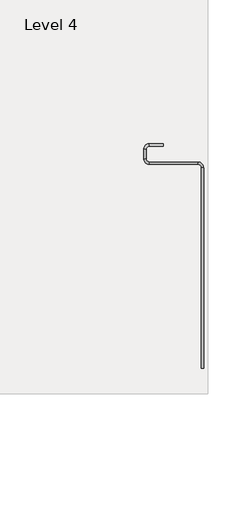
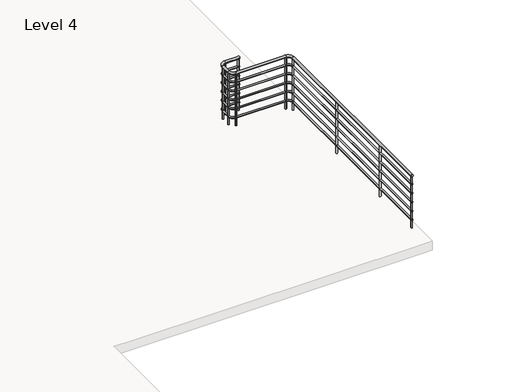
# One storey, part 2 of 4: 1 railing.
"""IFC4 building model written with IfcOpenShell, lengths in millimetres."""

from ifc_helpers import new_model, si_unit, point, frame, frame_2d, origin, place, context, project, spatial, circle_curve, ellipse_curve, trimmed, segment, composite_curve, outline, extrude, element, save
from ifc_brep_helpers import plane_surface, cylinder_surface, revolved_surface, advanced_brep

model = new_model("IFC4")

# Units and contexts
model_context = context("Model", 3, world=origin())
ifc_project = project(units=[si_unit("LENGTHUNIT", "METRE", prefix="MILLI")], contexts=[model_context])

# Site, building, storey
site = spatial("IfcSite", under=ifc_project)
building = spatial("IfcBuilding", under=site)
storey = spatial("IfcBuildingStorey", under=building, Name="Level 4", Elevation=10972.8)

# Railing
placement = place(None, origin())
element("IfcRailing", 1, ObjectType="Handrail - Pipe", at=placement, inside=storey, context=model_context, shape_type="SolidModel", body=[
    advanced_brep(
    [(17286.8049721, -5485.5476681, 11868.15), (17286.8049721, -5523.6476681, 11868.15), (17058.2049721, -5485.5476681, 11868.15), (17058.2049721, -5523.6476681, 11868.15), (17001.0549721, -5580.7976681, 11868.15), (16962.9549721, -5580.7976681, 11868.15), (16962.9549721, -5733.1976681, 11868.15), (17001.0549721, -5733.1976681, 11868.15), (17058.2049721, -5790.3476681, 11868.15), (17058.2049721, -5828.4476681, 11868.15), (17861.7339721, -5828.4476681, 11868.15), (17861.7339721, -5790.3476681, 11868.15), (17918.8839721, -9214.5851681, 11868.15), (17956.9839721, -9214.5851681, 11868.15), (17956.9839721, -5885.5976681, 11868.15), (17918.8839721, -5885.5976681, 11868.15)],
    [
        (0, 1, circle_curve(frame((17286.8049721, -5504.5976681, 11868.15), z_axis=(1.0, 0.0, 0.0), x_axis=(0.0, -1.0, 0.0)), 19.05)),
        (1, 0, circle_curve(frame((17286.8049721, -5504.5976681, 11868.15), z_axis=(1.0, 0.0, 0.0), x_axis=(0.0, -1.0, 0.0)), 19.05)),
        (0, 2),
        (2, 3, circle_curve(frame((17058.2049721, -5504.5976681, 11868.15), z_axis=(1.0, 0.0, 0.0), x_axis=(0.0, -1.0, 0.0)), 19.05)),
        (3, 1),
        (3, 2, circle_curve(frame((17058.2049721, -5504.5976681, 11868.15), z_axis=(1.0, 0.0, 0.0), x_axis=(0.0, -1.0, 0.0)), 19.05)),
        (4, 5, circle_curve(frame((16982.0049721, -5580.7976681, 11868.15), z_axis=(0.0, -1.0, 0.0), x_axis=(1.0, 0.0, 0.0)), 19.05)),
        (5, 6),
        (6, 7, circle_curve(frame((16982.0049721, -5733.1976681, 11868.15), z_axis=(0.0, 1.0, 0.0), x_axis=(1.0, 0.0, 0.0)), 19.05)),
        (7, 4),
        (5, 4, circle_curve(frame((16982.0049721, -5580.7976681, 11868.15), z_axis=(0.0, -1.0, 0.0), x_axis=(1.0, 0.0, 0.0)), 19.05)),
        (7, 6, circle_curve(frame((16982.0049721, -5733.1976681, 11868.15), z_axis=(0.0, 1.0, 0.0), x_axis=(1.0, 0.0, 0.0)), 19.05)),
        (8, 9, circle_curve(frame((17058.2049721, -5809.3976681, 11868.15), z_axis=(1.0, 0.0, 0.0), x_axis=(0.0, 1.0, 0.0)), 19.05)),
        (9, 10),
        (10, 11, circle_curve(frame((17861.7339721, -5809.3976681, 11868.15), z_axis=(-1.0, 0.0, 0.0), x_axis=(0.0, 1.0, 0.0)), 19.05)),
        (11, 8),
        (9, 8, circle_curve(frame((17058.2049721, -5809.3976681, 11868.15), z_axis=(1.0, 0.0, 0.0), x_axis=(0.0, 1.0, 0.0)), 19.05)),
        (11, 10, circle_curve(frame((17861.7339721, -5809.3976681, 11868.15), z_axis=(-1.0, 0.0, 0.0), x_axis=(0.0, 1.0, 0.0)), 19.05)),
        (12, 13, circle_curve(frame((17937.9339721, -9214.5851681, 11868.15), z_axis=(0.0, -1.0, 0.0), x_axis=(1.0, 0.0, 0.0)), 19.05)),
        (13, 12, circle_curve(frame((17937.9339721, -9214.5851681, 11868.15), z_axis=(0.0, -1.0, 0.0), x_axis=(1.0, 0.0, 0.0)), 19.05)),
        (14, 15, circle_curve(frame((17937.9339721, -5885.5976681, 11868.15), z_axis=(0.0, -1.0, 0.0), x_axis=(1.0, 0.0, 0.0)), 19.05)),
        (15, 12),
        (13, 14),
        (15, 14, circle_curve(frame((17937.9339721, -5885.5976681, 11868.15), z_axis=(0.0, -1.0, 0.0), x_axis=(1.0, 0.0, 0.0)), 19.05)),
        (4, 3, circle_curve(frame((17058.2049721, -5580.7976681, 11868.15), z_axis=(0.0, 0.0, -1.0), x_axis=(0.0, 1.0, 0.0)), 57.15)),
        (2, 5, circle_curve(frame((17058.2049721, -5580.7976681, 11868.15), z_axis=(0.0, 0.0, 1.0), x_axis=(0.0, 1.0, 0.0)), 95.25)),
        (8, 7, circle_curve(frame((17058.2049721, -5733.1976681, 11868.15), z_axis=(0.0, 0.0, -1.0), x_axis=(-1.0, 0.0, 0.0)), 57.15)),
        (6, 9, circle_curve(frame((17058.2049721, -5733.1976681, 11868.15), z_axis=(0.0, 0.0, 1.0), x_axis=(-1.0, 0.0, 0.0)), 95.25)),
        (14, 11, circle_curve(frame((17861.7339721, -5885.5976681, 11868.15), z_axis=(0.0, 0.0, 1.0), x_axis=(0.0, 1.0, 0.0)), 95.25)),
        (10, 15, circle_curve(frame((17861.7339721, -5885.5976681, 11868.15), z_axis=(0.0, 0.0, -1.0), x_axis=(0.0, 1.0, 0.0)), 57.15)),
    ],
    [
        plane_surface(frame((17286.8049721, -5504.5976681, 11887.2), z_axis=(1.0, 0.0, 0.0), x_axis=(0.0, -1.0, 0.0))),
        cylinder_surface(frame((17286.8049721, -5504.5976681, 11868.15), z_axis=(1.0, 0.0, 0.0), x_axis=(0.0, -1.0, 0.0)), 19.05),
        cylinder_surface(frame((16982.0049721, -5580.7976681, 11868.15), z_axis=(0.0, 1.0, 0.0), x_axis=(1.0, 0.0, 0.0)), 19.05),
        cylinder_surface(frame((17058.2049721, -5809.3976681, 11868.15), z_axis=(-1.0, 0.0, 0.0), x_axis=(0.0, 1.0, 0.0)), 19.05),
        plane_surface(frame((17937.9339721, -9214.5851681, 11887.2), z_axis=(0.0, -1.0, 0.0), x_axis=(0.0, 0.0, -1.0))),
        cylinder_surface(frame((17937.9339721, -5885.5976681, 11868.15), z_axis=(0.0, 1.0, 0.0), x_axis=(1.0, 0.0, 0.0)), 19.05),
        revolved_surface(trimmed(ellipse_curve(frame((17058.2049721, -5504.5976681, 11868.15), z_axis=(1.0, 0.0, 0.0), x_axis=(0.0, -1.0, 0.0)), 19.05, 19.05), [point((17058.2049721, -5485.5476681, 11868.15))], [point((17058.2049721, -5523.6476681, 11868.15))], True, "CARTESIAN"), (17058.2049721, -5580.7976681, 11887.2), (0.0, 0.0, 1.0)),
        revolved_surface(trimmed(ellipse_curve(frame((17058.2049721, -5504.5976681, 11868.15), z_axis=(1.0, 0.0, 0.0), x_axis=(0.0, -1.0, 0.0)), 19.05, 19.05), [point((17058.2049721, -5523.6476681, 11868.15))], [point((17058.2049721, -5485.5476681, 11868.15))], True, "CARTESIAN"), (17058.2049721, -5580.7976681, 11887.2), (0.0, 0.0, 1.0)),
        revolved_surface(trimmed(ellipse_curve(frame((16982.0049721, -5733.1976681, 11868.15), z_axis=(0.0, 1.0, 0.0), x_axis=(1.0, 0.0, 0.0)), 19.05, 19.05), [point((16962.9549721, -5733.1976681, 11868.15))], [point((17001.0549721, -5733.1976681, 11868.15))], True, "CARTESIAN"), (17058.2049721, -5733.1976681, 11887.2), (0.0, 0.0, 1.0)),
        revolved_surface(trimmed(ellipse_curve(frame((16982.0049721, -5733.1976681, 11868.15), z_axis=(0.0, 1.0, 0.0), x_axis=(1.0, 0.0, 0.0)), 19.05, 19.05), [point((17001.0549721, -5733.1976681, 11868.15))], [point((16962.9549721, -5733.1976681, 11868.15))], True, "CARTESIAN"), (17058.2049721, -5733.1976681, 11887.2), (0.0, 0.0, 1.0)),
        revolved_surface(trimmed(ellipse_curve(frame((17861.7339721, -5809.3976681, 11868.15), z_axis=(-1.0, 0.0, 0.0), x_axis=(0.0, 1.0, 0.0)), 19.05, 19.05), [point((17861.7339721, -5828.4476681, 11868.15))], [point((17861.7339721, -5790.3476681, 11868.15))], True, "CARTESIAN"), (17861.7339721, -5885.5976681, 11887.2), (0.0, 0.0, -1.0)),
        revolved_surface(trimmed(ellipse_curve(frame((17861.7339721, -5809.3976681, 11868.15), z_axis=(-1.0, 0.0, 0.0), x_axis=(0.0, 1.0, 0.0)), 19.05, 19.05), [point((17861.7339721, -5790.3476681, 11868.15))], [point((17861.7339721, -5828.4476681, 11868.15))], True, "CARTESIAN"), (17861.7339721, -5885.5976681, 11887.2), (0.0, 0.0, -1.0)),
    ],
    [
        (0, [[1, 2]]),
        (1, [[-1, 3, 4, 5]]),
        (1, [[-2, -5, 6, -3]]),
        (2, [[7, 8, 9, 10]]),
        (2, [[11, -10, 12, -8]]),
        (3, [[13, 14, 15, 16]]),
        (3, [[17, -16, 18, -14]]),
        (4, [[19, 20]]),
        (5, [[21, 22, -20, 23]]),
        (5, [[24, -23, -19, -22]]),
        (6, [[25, -4, 26, -7]]),
        (7, [[-26, -6, -25, -11]]),
        (8, [[27, -9, 28, -13]]),
        (9, [[-28, -12, -27, -17]]),
        (10, [[29, -15, 30, -21]]),
        (11, [[-30, -18, -29, -24]]),
    ],
),
    advanced_brep(
    [(17286.8049721, -5517.2976681, 11722.1), (17286.8049721, -5491.8976681, 11722.1), (17058.2049721, -5517.2976681, 11722.1), (17058.2049721, -5491.8976681, 11722.1), (16969.3049721, -5580.7976681, 11722.1), (16994.7049721, -5580.7976681, 11722.1), (16994.7049721, -5733.1976681, 11722.1), (16969.3049721, -5733.1976681, 11722.1), (17058.2049721, -5822.0976681, 11722.1), (17058.2049721, -5796.6976681, 11722.1), (17861.7339721, -5796.6976681, 11722.1), (17861.7339721, -5822.0976681, 11722.1), (17950.6339721, -9214.5851681, 11722.1), (17925.2339721, -9214.5851681, 11722.1), (17925.2339721, -5885.5976681, 11722.1), (17950.6339721, -5885.5976681, 11722.1)],
    [
        (0, 1, circle_curve(frame((17286.8049721, -5504.5976681, 11722.1), z_axis=(1.0, 0.0, 0.0), x_axis=(0.0, 1.0, 0.0)), 12.7)),
        (1, 0, circle_curve(frame((17286.8049721, -5504.5976681, 11722.1), z_axis=(1.0, 0.0, 0.0), x_axis=(0.0, 1.0, 0.0)), 12.7)),
        (0, 2),
        (2, 3, circle_curve(frame((17058.2049721, -5504.5976681, 11722.1), z_axis=(1.0, 0.0, 0.0), x_axis=(0.0, 1.0, 0.0)), 12.7)),
        (3, 1),
        (3, 2, circle_curve(frame((17058.2049721, -5504.5976681, 11722.1), z_axis=(1.0, 0.0, 0.0), x_axis=(0.0, 1.0, 0.0)), 12.7)),
        (4, 5, circle_curve(frame((16982.0049721, -5580.7976681, 11722.1), z_axis=(0.0, -1.0, 0.0), x_axis=(-1.0, 0.0, 0.0)), 12.7)),
        (5, 6),
        (6, 7, circle_curve(frame((16982.0049721, -5733.1976681, 11722.1), z_axis=(0.0, 1.0, 0.0), x_axis=(-1.0, 0.0, 0.0)), 12.7)),
        (7, 4),
        (5, 4, circle_curve(frame((16982.0049721, -5580.7976681, 11722.1), z_axis=(0.0, -1.0, 0.0), x_axis=(-1.0, 0.0, 0.0)), 12.7)),
        (7, 6, circle_curve(frame((16982.0049721, -5733.1976681, 11722.1), z_axis=(0.0, 1.0, 0.0), x_axis=(-1.0, 0.0, 0.0)), 12.7)),
        (8, 9, circle_curve(frame((17058.2049721, -5809.3976681, 11722.1), z_axis=(1.0, 0.0, 0.0), x_axis=(0.0, -1.0, 0.0)), 12.7)),
        (9, 10),
        (10, 11, circle_curve(frame((17861.7339721, -5809.3976681, 11722.1), z_axis=(-1.0, 0.0, 0.0), x_axis=(0.0, -1.0, 0.0)), 12.7)),
        (11, 8),
        (9, 8, circle_curve(frame((17058.2049721, -5809.3976681, 11722.1), z_axis=(1.0, 0.0, 0.0), x_axis=(0.0, -1.0, 0.0)), 12.7)),
        (11, 10, circle_curve(frame((17861.7339721, -5809.3976681, 11722.1), z_axis=(-1.0, 0.0, 0.0), x_axis=(0.0, -1.0, 0.0)), 12.7)),
        (12, 13, circle_curve(frame((17937.9339721, -9214.5851681, 11722.1), z_axis=(0.0, -1.0, 0.0), x_axis=(-1.0, 0.0, 0.0)), 12.7)),
        (13, 12, circle_curve(frame((17937.9339721, -9214.5851681, 11722.1), z_axis=(0.0, -1.0, 0.0), x_axis=(-1.0, 0.0, 0.0)), 12.7)),
        (14, 15, circle_curve(frame((17937.9339721, -5885.5976681, 11722.1), z_axis=(0.0, -1.0, 0.0), x_axis=(-1.0, 0.0, 0.0)), 12.7)),
        (15, 12),
        (13, 14),
        (15, 14, circle_curve(frame((17937.9339721, -5885.5976681, 11722.1), z_axis=(0.0, -1.0, 0.0), x_axis=(-1.0, 0.0, 0.0)), 12.7)),
        (4, 3, circle_curve(frame((17058.2049721, -5580.7976681, 11722.1), z_axis=(0.0, 0.0, -1.0), x_axis=(0.0, 1.0, 0.0)), 88.9)),
        (2, 5, circle_curve(frame((17058.2049721, -5580.7976681, 11722.1), z_axis=(0.0, 0.0, 1.0), x_axis=(0.0, 1.0, 0.0)), 63.5)),
        (8, 7, circle_curve(frame((17058.2049721, -5733.1976681, 11722.1), z_axis=(0.0, 0.0, -1.0), x_axis=(-1.0, 0.0, 0.0)), 88.9)),
        (6, 9, circle_curve(frame((17058.2049721, -5733.1976681, 11722.1), z_axis=(0.0, 0.0, 1.0), x_axis=(-1.0, 0.0, 0.0)), 63.5)),
        (14, 11, circle_curve(frame((17861.7339721, -5885.5976681, 11722.1), z_axis=(0.0, 0.0, 1.0), x_axis=(0.0, 1.0, 0.0)), 63.5)),
        (10, 15, circle_curve(frame((17861.7339721, -5885.5976681, 11722.1), z_axis=(0.0, 0.0, -1.0), x_axis=(0.0, 1.0, 0.0)), 88.9)),
    ],
    [
        plane_surface(frame((17286.8049721, -5504.5976681, 11734.8), z_axis=(1.0, 0.0, 0.0), x_axis=(0.0, -1.0, 0.0))),
        cylinder_surface(frame((17286.8049721, -5504.5976681, 11722.1), z_axis=(1.0, 0.0, 0.0), x_axis=(0.0, 1.0, 0.0)), 12.7),
        cylinder_surface(frame((16982.0049721, -5580.7976681, 11722.1), z_axis=(0.0, 1.0, 0.0), x_axis=(-1.0, 0.0, 0.0)), 12.7),
        cylinder_surface(frame((17058.2049721, -5809.3976681, 11722.1), z_axis=(-1.0, 0.0, 0.0), x_axis=(0.0, -1.0, 0.0)), 12.7),
        plane_surface(frame((17937.9339721, -9214.5851681, 11734.8), z_axis=(0.0, -1.0, 0.0), x_axis=(0.0, 0.0, -1.0))),
        cylinder_surface(frame((17937.9339721, -5885.5976681, 11722.1), z_axis=(0.0, 1.0, 0.0), x_axis=(-1.0, 0.0, 0.0)), 12.7),
        revolved_surface(trimmed(ellipse_curve(frame((17058.2049721, -5504.5976681, 11722.1), z_axis=(1.0, 0.0, 0.0), x_axis=(0.0, 1.0, 0.0)), 12.7, 12.7), [point((17058.2049721, -5517.2976681, 11722.1))], [point((17058.2049721, -5491.8976681, 11722.1))], True, "CARTESIAN"), (17058.2049721, -5580.7976681, 11734.8), (0.0, 0.0, 1.0)),
        revolved_surface(trimmed(ellipse_curve(frame((17058.2049721, -5504.5976681, 11722.1), z_axis=(1.0, 0.0, 0.0), x_axis=(0.0, 1.0, 0.0)), 12.7, 12.7), [point((17058.2049721, -5491.8976681, 11722.1))], [point((17058.2049721, -5517.2976681, 11722.1))], True, "CARTESIAN"), (17058.2049721, -5580.7976681, 11734.8), (0.0, 0.0, 1.0)),
        revolved_surface(trimmed(ellipse_curve(frame((16982.0049721, -5733.1976681, 11722.1), z_axis=(0.0, 1.0, 0.0), x_axis=(-1.0, 0.0, 0.0)), 12.7, 12.7), [point((16994.7049721, -5733.1976681, 11722.1))], [point((16969.3049721, -5733.1976681, 11722.1))], True, "CARTESIAN"), (17058.2049721, -5733.1976681, 11734.8), (0.0, 0.0, 1.0)),
        revolved_surface(trimmed(ellipse_curve(frame((16982.0049721, -5733.1976681, 11722.1), z_axis=(0.0, 1.0, 0.0), x_axis=(-1.0, 0.0, 0.0)), 12.7, 12.7), [point((16969.3049721, -5733.1976681, 11722.1))], [point((16994.7049721, -5733.1976681, 11722.1))], True, "CARTESIAN"), (17058.2049721, -5733.1976681, 11734.8), (0.0, 0.0, 1.0)),
        revolved_surface(trimmed(ellipse_curve(frame((17861.7339721, -5809.3976681, 11722.1), z_axis=(-1.0, 0.0, 0.0), x_axis=(0.0, -1.0, 0.0)), 12.7, 12.7), [point((17861.7339721, -5796.6976681, 11722.1))], [point((17861.7339721, -5822.0976681, 11722.1))], True, "CARTESIAN"), (17861.7339721, -5885.5976681, 11734.8), (0.0, 0.0, -1.0)),
        revolved_surface(trimmed(ellipse_curve(frame((17861.7339721, -5809.3976681, 11722.1), z_axis=(-1.0, 0.0, 0.0), x_axis=(0.0, -1.0, 0.0)), 12.7, 12.7), [point((17861.7339721, -5822.0976681, 11722.1))], [point((17861.7339721, -5796.6976681, 11722.1))], True, "CARTESIAN"), (17861.7339721, -5885.5976681, 11734.8), (0.0, 0.0, -1.0)),
    ],
    [
        (0, [[1, 2]]),
        (1, [[-1, 3, 4, 5]]),
        (1, [[-2, -5, 6, -3]]),
        (2, [[7, 8, 9, 10]]),
        (2, [[11, -10, 12, -8]]),
        (3, [[13, 14, 15, 16]]),
        (3, [[17, -16, 18, -14]]),
        (4, [[19, 20]]),
        (5, [[21, 22, -20, 23]]),
        (5, [[24, -23, -19, -22]]),
        (6, [[25, -4, 26, -7]]),
        (7, [[-26, -6, -25, -11]]),
        (8, [[27, -9, 28, -13]]),
        (9, [[-28, -12, -27, -17]]),
        (10, [[29, -15, 30, -21]]),
        (11, [[-30, -18, -29, -24]]),
    ],
),
    advanced_brep(
    [(17286.8049721, -5517.2976681, 11569.7), (17286.8049721, -5491.8976681, 11569.7), (17058.2049721, -5517.2976681, 11569.7), (17058.2049721, -5491.8976681, 11569.7), (16969.3049721, -5580.7976681, 11569.7), (16994.7049721, -5580.7976681, 11569.7), (16994.7049721, -5733.1976681, 11569.7), (16969.3049721, -5733.1976681, 11569.7), (17058.2049721, -5822.0976681, 11569.7), (17058.2049721, -5796.6976681, 11569.7), (17861.7339721, -5796.6976681, 11569.7), (17861.7339721, -5822.0976681, 11569.7), (17950.6339721, -9214.5851681, 11569.7), (17925.2339721, -9214.5851681, 11569.7), (17925.2339721, -5885.5976681, 11569.7), (17950.6339721, -5885.5976681, 11569.7)],
    [
        (0, 1, circle_curve(frame((17286.8049721, -5504.5976681, 11569.7), z_axis=(1.0, 0.0, 0.0), x_axis=(0.0, 1.0, 0.0)), 12.7)),
        (1, 0, circle_curve(frame((17286.8049721, -5504.5976681, 11569.7), z_axis=(1.0, 0.0, 0.0), x_axis=(0.0, 1.0, 0.0)), 12.7)),
        (0, 2),
        (2, 3, circle_curve(frame((17058.2049721, -5504.5976681, 11569.7), z_axis=(1.0, 0.0, 0.0), x_axis=(0.0, 1.0, 0.0)), 12.7)),
        (3, 1),
        (3, 2, circle_curve(frame((17058.2049721, -5504.5976681, 11569.7), z_axis=(1.0, 0.0, 0.0), x_axis=(0.0, 1.0, 0.0)), 12.7)),
        (4, 5, circle_curve(frame((16982.0049721, -5580.7976681, 11569.7), z_axis=(0.0, -1.0, 0.0), x_axis=(-1.0, 0.0, 0.0)), 12.7)),
        (5, 6),
        (6, 7, circle_curve(frame((16982.0049721, -5733.1976681, 11569.7), z_axis=(0.0, 1.0, 0.0), x_axis=(-1.0, 0.0, 0.0)), 12.7)),
        (7, 4),
        (5, 4, circle_curve(frame((16982.0049721, -5580.7976681, 11569.7), z_axis=(0.0, -1.0, 0.0), x_axis=(-1.0, 0.0, 0.0)), 12.7)),
        (7, 6, circle_curve(frame((16982.0049721, -5733.1976681, 11569.7), z_axis=(0.0, 1.0, 0.0), x_axis=(-1.0, 0.0, 0.0)), 12.7)),
        (8, 9, circle_curve(frame((17058.2049721, -5809.3976681, 11569.7), z_axis=(1.0, 0.0, 0.0), x_axis=(0.0, -1.0, 0.0)), 12.7)),
        (9, 10),
        (10, 11, circle_curve(frame((17861.7339721, -5809.3976681, 11569.7), z_axis=(-1.0, 0.0, 0.0), x_axis=(0.0, -1.0, 0.0)), 12.7)),
        (11, 8),
        (9, 8, circle_curve(frame((17058.2049721, -5809.3976681, 11569.7), z_axis=(1.0, 0.0, 0.0), x_axis=(0.0, -1.0, 0.0)), 12.7)),
        (11, 10, circle_curve(frame((17861.7339721, -5809.3976681, 11569.7), z_axis=(-1.0, 0.0, 0.0), x_axis=(0.0, -1.0, 0.0)), 12.7)),
        (12, 13, circle_curve(frame((17937.9339721, -9214.5851681, 11569.7), z_axis=(0.0, -1.0, 0.0), x_axis=(-1.0, 0.0, 0.0)), 12.7)),
        (13, 12, circle_curve(frame((17937.9339721, -9214.5851681, 11569.7), z_axis=(0.0, -1.0, 0.0), x_axis=(-1.0, 0.0, 0.0)), 12.7)),
        (14, 15, circle_curve(frame((17937.9339721, -5885.5976681, 11569.7), z_axis=(0.0, -1.0, 0.0), x_axis=(-1.0, 0.0, 0.0)), 12.7)),
        (15, 12),
        (13, 14),
        (15, 14, circle_curve(frame((17937.9339721, -5885.5976681, 11569.7), z_axis=(0.0, -1.0, 0.0), x_axis=(-1.0, 0.0, 0.0)), 12.7)),
        (4, 3, circle_curve(frame((17058.2049721, -5580.7976681, 11569.7), z_axis=(0.0, 0.0, -1.0), x_axis=(0.0, 1.0, 0.0)), 88.9)),
        (2, 5, circle_curve(frame((17058.2049721, -5580.7976681, 11569.7), z_axis=(0.0, 0.0, 1.0), x_axis=(0.0, 1.0, 0.0)), 63.5)),
        (8, 7, circle_curve(frame((17058.2049721, -5733.1976681, 11569.7), z_axis=(0.0, 0.0, -1.0), x_axis=(-1.0, 0.0, 0.0)), 88.9)),
        (6, 9, circle_curve(frame((17058.2049721, -5733.1976681, 11569.7), z_axis=(0.0, 0.0, 1.0), x_axis=(-1.0, 0.0, 0.0)), 63.5)),
        (14, 11, circle_curve(frame((17861.7339721, -5885.5976681, 11569.7), z_axis=(0.0, 0.0, 1.0), x_axis=(0.0, 1.0, 0.0)), 63.5)),
        (10, 15, circle_curve(frame((17861.7339721, -5885.5976681, 11569.7), z_axis=(0.0, 0.0, -1.0), x_axis=(0.0, 1.0, 0.0)), 88.9)),
    ],
    [
        plane_surface(frame((17286.8049721, -5504.5976681, 11582.4), z_axis=(1.0, 0.0, 0.0), x_axis=(0.0, -1.0, 0.0))),
        cylinder_surface(frame((17286.8049721, -5504.5976681, 11569.7), z_axis=(1.0, 0.0, 0.0), x_axis=(0.0, 1.0, 0.0)), 12.7),
        cylinder_surface(frame((16982.0049721, -5580.7976681, 11569.7), z_axis=(0.0, 1.0, 0.0), x_axis=(-1.0, 0.0, 0.0)), 12.7),
        cylinder_surface(frame((17058.2049721, -5809.3976681, 11569.7), z_axis=(-1.0, 0.0, 0.0), x_axis=(0.0, -1.0, 0.0)), 12.7),
        plane_surface(frame((17937.9339721, -9214.5851681, 11582.4), z_axis=(0.0, -1.0, 0.0), x_axis=(0.0, 0.0, -1.0))),
        cylinder_surface(frame((17937.9339721, -5885.5976681, 11569.7), z_axis=(0.0, 1.0, 0.0), x_axis=(-1.0, 0.0, 0.0)), 12.7),
        revolved_surface(trimmed(ellipse_curve(frame((17058.2049721, -5504.5976681, 11569.7), z_axis=(1.0, 0.0, 0.0), x_axis=(0.0, 1.0, 0.0)), 12.7, 12.7), [point((17058.2049721, -5517.2976681, 11569.7))], [point((17058.2049721, -5491.8976681, 11569.7))], True, "CARTESIAN"), (17058.2049721, -5580.7976681, 11582.4), (0.0, 0.0, 1.0)),
        revolved_surface(trimmed(ellipse_curve(frame((17058.2049721, -5504.5976681, 11569.7), z_axis=(1.0, 0.0, 0.0), x_axis=(0.0, 1.0, 0.0)), 12.7, 12.7), [point((17058.2049721, -5491.8976681, 11569.7))], [point((17058.2049721, -5517.2976681, 11569.7))], True, "CARTESIAN"), (17058.2049721, -5580.7976681, 11582.4), (0.0, 0.0, 1.0)),
        revolved_surface(trimmed(ellipse_curve(frame((16982.0049721, -5733.1976681, 11569.7), z_axis=(0.0, 1.0, 0.0), x_axis=(-1.0, 0.0, 0.0)), 12.7, 12.7), [point((16994.7049721, -5733.1976681, 11569.7))], [point((16969.3049721, -5733.1976681, 11569.7))], True, "CARTESIAN"), (17058.2049721, -5733.1976681, 11582.4), (0.0, 0.0, 1.0)),
        revolved_surface(trimmed(ellipse_curve(frame((16982.0049721, -5733.1976681, 11569.7), z_axis=(0.0, 1.0, 0.0), x_axis=(-1.0, 0.0, 0.0)), 12.7, 12.7), [point((16969.3049721, -5733.1976681, 11569.7))], [point((16994.7049721, -5733.1976681, 11569.7))], True, "CARTESIAN"), (17058.2049721, -5733.1976681, 11582.4), (0.0, 0.0, 1.0)),
        revolved_surface(trimmed(ellipse_curve(frame((17861.7339721, -5809.3976681, 11569.7), z_axis=(-1.0, 0.0, 0.0), x_axis=(0.0, -1.0, 0.0)), 12.7, 12.7), [point((17861.7339721, -5796.6976681, 11569.7))], [point((17861.7339721, -5822.0976681, 11569.7))], True, "CARTESIAN"), (17861.7339721, -5885.5976681, 11582.4), (0.0, 0.0, -1.0)),
        revolved_surface(trimmed(ellipse_curve(frame((17861.7339721, -5809.3976681, 11569.7), z_axis=(-1.0, 0.0, 0.0), x_axis=(0.0, -1.0, 0.0)), 12.7, 12.7), [point((17861.7339721, -5822.0976681, 11569.7))], [point((17861.7339721, -5796.6976681, 11569.7))], True, "CARTESIAN"), (17861.7339721, -5885.5976681, 11582.4), (0.0, 0.0, -1.0)),
    ],
    [
        (0, [[1, 2]]),
        (1, [[-1, 3, 4, 5]]),
        (1, [[-2, -5, 6, -3]]),
        (2, [[7, 8, 9, 10]]),
        (2, [[11, -10, 12, -8]]),
        (3, [[13, 14, 15, 16]]),
        (3, [[17, -16, 18, -14]]),
        (4, [[19, 20]]),
        (5, [[21, 22, -20, 23]]),
        (5, [[24, -23, -19, -22]]),
        (6, [[25, -4, 26, -7]]),
        (7, [[-26, -6, -25, -11]]),
        (8, [[27, -9, 28, -13]]),
        (9, [[-28, -12, -27, -17]]),
        (10, [[29, -15, 30, -21]]),
        (11, [[-30, -18, -29, -24]]),
    ],
),
    advanced_brep(
    [(17286.8049721, -5517.2976681, 11417.3), (17286.8049721, -5491.8976681, 11417.3), (17058.2049721, -5517.2976681, 11417.3), (17058.2049721, -5491.8976681, 11417.3), (16969.3049721, -5580.7976681, 11417.3), (16994.7049721, -5580.7976681, 11417.3), (16994.7049721, -5733.1976681, 11417.3), (16969.3049721, -5733.1976681, 11417.3), (17058.2049721, -5822.0976681, 11417.3), (17058.2049721, -5796.6976681, 11417.3), (17861.7339721, -5796.6976681, 11417.3), (17861.7339721, -5822.0976681, 11417.3), (17950.6339721, -9214.5851681, 11417.3), (17925.2339721, -9214.5851681, 11417.3), (17925.2339721, -5885.5976681, 11417.3), (17950.6339721, -5885.5976681, 11417.3)],
    [
        (0, 1, circle_curve(frame((17286.8049721, -5504.5976681, 11417.3), z_axis=(1.0, 0.0, 0.0), x_axis=(0.0, 1.0, 0.0)), 12.7)),
        (1, 0, circle_curve(frame((17286.8049721, -5504.5976681, 11417.3), z_axis=(1.0, 0.0, 0.0), x_axis=(0.0, 1.0, 0.0)), 12.7)),
        (0, 2),
        (2, 3, circle_curve(frame((17058.2049721, -5504.5976681, 11417.3), z_axis=(1.0, 0.0, 0.0), x_axis=(0.0, 1.0, 0.0)), 12.7)),
        (3, 1),
        (3, 2, circle_curve(frame((17058.2049721, -5504.5976681, 11417.3), z_axis=(1.0, 0.0, 0.0), x_axis=(0.0, 1.0, 0.0)), 12.7)),
        (4, 5, circle_curve(frame((16982.0049721, -5580.7976681, 11417.3), z_axis=(0.0, -1.0, 0.0), x_axis=(-1.0, 0.0, 0.0)), 12.7)),
        (5, 6),
        (6, 7, circle_curve(frame((16982.0049721, -5733.1976681, 11417.3), z_axis=(0.0, 1.0, 0.0), x_axis=(-1.0, 0.0, 0.0)), 12.7)),
        (7, 4),
        (5, 4, circle_curve(frame((16982.0049721, -5580.7976681, 11417.3), z_axis=(0.0, -1.0, 0.0), x_axis=(-1.0, 0.0, 0.0)), 12.7)),
        (7, 6, circle_curve(frame((16982.0049721, -5733.1976681, 11417.3), z_axis=(0.0, 1.0, 0.0), x_axis=(-1.0, 0.0, 0.0)), 12.7)),
        (8, 9, circle_curve(frame((17058.2049721, -5809.3976681, 11417.3), z_axis=(1.0, 0.0, 0.0), x_axis=(0.0, -1.0, 0.0)), 12.7)),
        (9, 10),
        (10, 11, circle_curve(frame((17861.7339721, -5809.3976681, 11417.3), z_axis=(-1.0, 0.0, 0.0), x_axis=(0.0, -1.0, 0.0)), 12.7)),
        (11, 8),
        (9, 8, circle_curve(frame((17058.2049721, -5809.3976681, 11417.3), z_axis=(1.0, 0.0, 0.0), x_axis=(0.0, -1.0, 0.0)), 12.7)),
        (11, 10, circle_curve(frame((17861.7339721, -5809.3976681, 11417.3), z_axis=(-1.0, 0.0, 0.0), x_axis=(0.0, -1.0, 0.0)), 12.7)),
        (12, 13, circle_curve(frame((17937.9339721, -9214.5851681, 11417.3), z_axis=(0.0, -1.0, 0.0), x_axis=(-1.0, 0.0, 0.0)), 12.7)),
        (13, 12, circle_curve(frame((17937.9339721, -9214.5851681, 11417.3), z_axis=(0.0, -1.0, 0.0), x_axis=(-1.0, 0.0, 0.0)), 12.7)),
        (14, 15, circle_curve(frame((17937.9339721, -5885.5976681, 11417.3), z_axis=(0.0, -1.0, 0.0), x_axis=(-1.0, 0.0, 0.0)), 12.7)),
        (15, 12),
        (13, 14),
        (15, 14, circle_curve(frame((17937.9339721, -5885.5976681, 11417.3), z_axis=(0.0, -1.0, 0.0), x_axis=(-1.0, 0.0, 0.0)), 12.7)),
        (4, 3, circle_curve(frame((17058.2049721, -5580.7976681, 11417.3), z_axis=(0.0, 0.0, -1.0), x_axis=(0.0, 1.0, 0.0)), 88.9)),
        (2, 5, circle_curve(frame((17058.2049721, -5580.7976681, 11417.3), z_axis=(0.0, 0.0, 1.0), x_axis=(0.0, 1.0, 0.0)), 63.5)),
        (8, 7, circle_curve(frame((17058.2049721, -5733.1976681, 11417.3), z_axis=(0.0, 0.0, -1.0), x_axis=(-1.0, 0.0, 0.0)), 88.9)),
        (6, 9, circle_curve(frame((17058.2049721, -5733.1976681, 11417.3), z_axis=(0.0, 0.0, 1.0), x_axis=(-1.0, 0.0, 0.0)), 63.5)),
        (14, 11, circle_curve(frame((17861.7339721, -5885.5976681, 11417.3), z_axis=(0.0, 0.0, 1.0), x_axis=(0.0, 1.0, 0.0)), 63.5)),
        (10, 15, circle_curve(frame((17861.7339721, -5885.5976681, 11417.3), z_axis=(0.0, 0.0, -1.0), x_axis=(0.0, 1.0, 0.0)), 88.9)),
    ],
    [
        plane_surface(frame((17286.8049721, -5504.5976681, 11430.0), z_axis=(1.0, 0.0, 0.0), x_axis=(0.0, -1.0, 0.0))),
        cylinder_surface(frame((17286.8049721, -5504.5976681, 11417.3), z_axis=(1.0, 0.0, 0.0), x_axis=(0.0, 1.0, 0.0)), 12.7),
        cylinder_surface(frame((16982.0049721, -5580.7976681, 11417.3), z_axis=(0.0, 1.0, 0.0), x_axis=(-1.0, 0.0, 0.0)), 12.7),
        cylinder_surface(frame((17058.2049721, -5809.3976681, 11417.3), z_axis=(-1.0, 0.0, 0.0), x_axis=(0.0, -1.0, 0.0)), 12.7),
        plane_surface(frame((17937.9339721, -9214.5851681, 11430.0), z_axis=(0.0, -1.0, 0.0), x_axis=(0.0, 0.0, -1.0))),
        cylinder_surface(frame((17937.9339721, -5885.5976681, 11417.3), z_axis=(0.0, 1.0, 0.0), x_axis=(-1.0, 0.0, 0.0)), 12.7),
        revolved_surface(trimmed(ellipse_curve(frame((17058.2049721, -5504.5976681, 11417.3), z_axis=(1.0, 0.0, 0.0), x_axis=(0.0, 1.0, 0.0)), 12.7, 12.7), [point((17058.2049721, -5517.2976681, 11417.3))], [point((17058.2049721, -5491.8976681, 11417.3))], True, "CARTESIAN"), (17058.2049721, -5580.7976681, 11430.0), (0.0, 0.0, 1.0)),
        revolved_surface(trimmed(ellipse_curve(frame((17058.2049721, -5504.5976681, 11417.3), z_axis=(1.0, 0.0, 0.0), x_axis=(0.0, 1.0, 0.0)), 12.7, 12.7), [point((17058.2049721, -5491.8976681, 11417.3))], [point((17058.2049721, -5517.2976681, 11417.3))], True, "CARTESIAN"), (17058.2049721, -5580.7976681, 11430.0), (0.0, 0.0, 1.0)),
        revolved_surface(trimmed(ellipse_curve(frame((16982.0049721, -5733.1976681, 11417.3), z_axis=(0.0, 1.0, 0.0), x_axis=(-1.0, 0.0, 0.0)), 12.7, 12.7), [point((16994.7049721, -5733.1976681, 11417.3))], [point((16969.3049721, -5733.1976681, 11417.3))], True, "CARTESIAN"), (17058.2049721, -5733.1976681, 11430.0), (0.0, 0.0, 1.0)),
        revolved_surface(trimmed(ellipse_curve(frame((16982.0049721, -5733.1976681, 11417.3), z_axis=(0.0, 1.0, 0.0), x_axis=(-1.0, 0.0, 0.0)), 12.7, 12.7), [point((16969.3049721, -5733.1976681, 11417.3))], [point((16994.7049721, -5733.1976681, 11417.3))], True, "CARTESIAN"), (17058.2049721, -5733.1976681, 11430.0), (0.0, 0.0, 1.0)),
        revolved_surface(trimmed(ellipse_curve(frame((17861.7339721, -5809.3976681, 11417.3), z_axis=(-1.0, 0.0, 0.0), x_axis=(0.0, -1.0, 0.0)), 12.7, 12.7), [point((17861.7339721, -5796.6976681, 11417.3))], [point((17861.7339721, -5822.0976681, 11417.3))], True, "CARTESIAN"), (17861.7339721, -5885.5976681, 11430.0), (0.0, 0.0, -1.0)),
        revolved_surface(trimmed(ellipse_curve(frame((17861.7339721, -5809.3976681, 11417.3), z_axis=(-1.0, 0.0, 0.0), x_axis=(0.0, -1.0, 0.0)), 12.7, 12.7), [point((17861.7339721, -5822.0976681, 11417.3))], [point((17861.7339721, -5796.6976681, 11417.3))], True, "CARTESIAN"), (17861.7339721, -5885.5976681, 11430.0), (0.0, 0.0, -1.0)),
    ],
    [
        (0, [[1, 2]]),
        (1, [[-1, 3, 4, 5]]),
        (1, [[-2, -5, 6, -3]]),
        (2, [[7, 8, 9, 10]]),
        (2, [[11, -10, 12, -8]]),
        (3, [[13, 14, 15, 16]]),
        (3, [[17, -16, 18, -14]]),
        (4, [[19, 20]]),
        (5, [[21, 22, -20, 23]]),
        (5, [[24, -23, -19, -22]]),
        (6, [[25, -4, 26, -7]]),
        (7, [[-26, -6, -25, -11]]),
        (8, [[27, -9, 28, -13]]),
        (9, [[-28, -12, -27, -17]]),
        (10, [[29, -15, 30, -21]]),
        (11, [[-30, -18, -29, -24]]),
    ],
),
    advanced_brep(
    [(17286.8049721, -5517.2976681, 11264.9), (17286.8049721, -5491.8976681, 11264.9), (17058.2049721, -5517.2976681, 11264.9), (17058.2049721, -5491.8976681, 11264.9), (16969.3049721, -5580.7976681, 11264.9), (16994.7049721, -5580.7976681, 11264.9), (16994.7049721, -5733.1976681, 11264.9), (16969.3049721, -5733.1976681, 11264.9), (17058.2049721, -5822.0976681, 11264.9), (17058.2049721, -5796.6976681, 11264.9), (17861.7339721, -5796.6976681, 11264.9), (17861.7339721, -5822.0976681, 11264.9), (17950.6339721, -9214.5851681, 11264.9), (17925.2339721, -9214.5851681, 11264.9), (17925.2339721, -5885.5976681, 11264.9), (17950.6339721, -5885.5976681, 11264.9)],
    [
        (0, 1, circle_curve(frame((17286.8049721, -5504.5976681, 11264.9), z_axis=(1.0, 0.0, 0.0), x_axis=(0.0, 1.0, 0.0)), 12.7)),
        (1, 0, circle_curve(frame((17286.8049721, -5504.5976681, 11264.9), z_axis=(1.0, 0.0, 0.0), x_axis=(0.0, 1.0, 0.0)), 12.7)),
        (0, 2),
        (2, 3, circle_curve(frame((17058.2049721, -5504.5976681, 11264.9), z_axis=(1.0, 0.0, 0.0), x_axis=(0.0, 1.0, 0.0)), 12.7)),
        (3, 1),
        (3, 2, circle_curve(frame((17058.2049721, -5504.5976681, 11264.9), z_axis=(1.0, 0.0, 0.0), x_axis=(0.0, 1.0, 0.0)), 12.7)),
        (4, 5, circle_curve(frame((16982.0049721, -5580.7976681, 11264.9), z_axis=(0.0, -1.0, 0.0), x_axis=(-1.0, 0.0, 0.0)), 12.7)),
        (5, 6),
        (6, 7, circle_curve(frame((16982.0049721, -5733.1976681, 11264.9), z_axis=(0.0, 1.0, 0.0), x_axis=(-1.0, 0.0, 0.0)), 12.7)),
        (7, 4),
        (5, 4, circle_curve(frame((16982.0049721, -5580.7976681, 11264.9), z_axis=(0.0, -1.0, 0.0), x_axis=(-1.0, 0.0, 0.0)), 12.7)),
        (7, 6, circle_curve(frame((16982.0049721, -5733.1976681, 11264.9), z_axis=(0.0, 1.0, 0.0), x_axis=(-1.0, 0.0, 0.0)), 12.7)),
        (8, 9, circle_curve(frame((17058.2049721, -5809.3976681, 11264.9), z_axis=(1.0, 0.0, 0.0), x_axis=(0.0, -1.0, 0.0)), 12.7)),
        (9, 10),
        (10, 11, circle_curve(frame((17861.7339721, -5809.3976681, 11264.9), z_axis=(-1.0, 0.0, 0.0), x_axis=(0.0, -1.0, 0.0)), 12.7)),
        (11, 8),
        (9, 8, circle_curve(frame((17058.2049721, -5809.3976681, 11264.9), z_axis=(1.0, 0.0, 0.0), x_axis=(0.0, -1.0, 0.0)), 12.7)),
        (11, 10, circle_curve(frame((17861.7339721, -5809.3976681, 11264.9), z_axis=(-1.0, 0.0, 0.0), x_axis=(0.0, -1.0, 0.0)), 12.7)),
        (12, 13, circle_curve(frame((17937.9339721, -9214.5851681, 11264.9), z_axis=(0.0, -1.0, 0.0), x_axis=(-1.0, 0.0, 0.0)), 12.7)),
        (13, 12, circle_curve(frame((17937.9339721, -9214.5851681, 11264.9), z_axis=(0.0, -1.0, 0.0), x_axis=(-1.0, 0.0, 0.0)), 12.7)),
        (14, 15, circle_curve(frame((17937.9339721, -5885.5976681, 11264.9), z_axis=(0.0, -1.0, 0.0), x_axis=(-1.0, 0.0, 0.0)), 12.7)),
        (15, 12),
        (13, 14),
        (15, 14, circle_curve(frame((17937.9339721, -5885.5976681, 11264.9), z_axis=(0.0, -1.0, 0.0), x_axis=(-1.0, 0.0, 0.0)), 12.7)),
        (4, 3, circle_curve(frame((17058.2049721, -5580.7976681, 11264.9), z_axis=(0.0, 0.0, -1.0), x_axis=(0.0, 1.0, 0.0)), 88.9)),
        (2, 5, circle_curve(frame((17058.2049721, -5580.7976681, 11264.9), z_axis=(0.0, 0.0, 1.0), x_axis=(0.0, 1.0, 0.0)), 63.5)),
        (8, 7, circle_curve(frame((17058.2049721, -5733.1976681, 11264.9), z_axis=(0.0, 0.0, -1.0), x_axis=(-1.0, 0.0, 0.0)), 88.9)),
        (6, 9, circle_curve(frame((17058.2049721, -5733.1976681, 11264.9), z_axis=(0.0, 0.0, 1.0), x_axis=(-1.0, 0.0, 0.0)), 63.5)),
        (14, 11, circle_curve(frame((17861.7339721, -5885.5976681, 11264.9), z_axis=(0.0, 0.0, 1.0), x_axis=(0.0, 1.0, 0.0)), 63.5)),
        (10, 15, circle_curve(frame((17861.7339721, -5885.5976681, 11264.9), z_axis=(0.0, 0.0, -1.0), x_axis=(0.0, 1.0, 0.0)), 88.9)),
    ],
    [
        plane_surface(frame((17286.8049721, -5504.5976681, 11277.6), z_axis=(1.0, 0.0, 0.0), x_axis=(0.0, -1.0, 0.0))),
        cylinder_surface(frame((17286.8049721, -5504.5976681, 11264.9), z_axis=(1.0, 0.0, 0.0), x_axis=(0.0, 1.0, 0.0)), 12.7),
        cylinder_surface(frame((16982.0049721, -5580.7976681, 11264.9), z_axis=(0.0, 1.0, 0.0), x_axis=(-1.0, 0.0, 0.0)), 12.7),
        cylinder_surface(frame((17058.2049721, -5809.3976681, 11264.9), z_axis=(-1.0, 0.0, 0.0), x_axis=(0.0, -1.0, 0.0)), 12.7),
        plane_surface(frame((17937.9339721, -9214.5851681, 11277.6), z_axis=(0.0, -1.0, 0.0), x_axis=(0.0, 0.0, -1.0))),
        cylinder_surface(frame((17937.9339721, -5885.5976681, 11264.9), z_axis=(0.0, 1.0, 0.0), x_axis=(-1.0, 0.0, 0.0)), 12.7),
        revolved_surface(trimmed(ellipse_curve(frame((17058.2049721, -5504.5976681, 11264.9), z_axis=(1.0, 0.0, 0.0), x_axis=(0.0, 1.0, 0.0)), 12.7, 12.7), [point((17058.2049721, -5517.2976681, 11264.9))], [point((17058.2049721, -5491.8976681, 11264.9))], True, "CARTESIAN"), (17058.2049721, -5580.7976681, 11277.6), (0.0, 0.0, 1.0)),
        revolved_surface(trimmed(ellipse_curve(frame((17058.2049721, -5504.5976681, 11264.9), z_axis=(1.0, 0.0, 0.0), x_axis=(0.0, 1.0, 0.0)), 12.7, 12.7), [point((17058.2049721, -5491.8976681, 11264.9))], [point((17058.2049721, -5517.2976681, 11264.9))], True, "CARTESIAN"), (17058.2049721, -5580.7976681, 11277.6), (0.0, 0.0, 1.0)),
        revolved_surface(trimmed(ellipse_curve(frame((16982.0049721, -5733.1976681, 11264.9), z_axis=(0.0, 1.0, 0.0), x_axis=(-1.0, 0.0, 0.0)), 12.7, 12.7), [point((16994.7049721, -5733.1976681, 11264.9))], [point((16969.3049721, -5733.1976681, 11264.9))], True, "CARTESIAN"), (17058.2049721, -5733.1976681, 11277.6), (0.0, 0.0, 1.0)),
        revolved_surface(trimmed(ellipse_curve(frame((16982.0049721, -5733.1976681, 11264.9), z_axis=(0.0, 1.0, 0.0), x_axis=(-1.0, 0.0, 0.0)), 12.7, 12.7), [point((16969.3049721, -5733.1976681, 11264.9))], [point((16994.7049721, -5733.1976681, 11264.9))], True, "CARTESIAN"), (17058.2049721, -5733.1976681, 11277.6), (0.0, 0.0, 1.0)),
        revolved_surface(trimmed(ellipse_curve(frame((17861.7339721, -5809.3976681, 11264.9), z_axis=(-1.0, 0.0, 0.0), x_axis=(0.0, -1.0, 0.0)), 12.7, 12.7), [point((17861.7339721, -5796.6976681, 11264.9))], [point((17861.7339721, -5822.0976681, 11264.9))], True, "CARTESIAN"), (17861.7339721, -5885.5976681, 11277.6), (0.0, 0.0, -1.0)),
        revolved_surface(trimmed(ellipse_curve(frame((17861.7339721, -5809.3976681, 11264.9), z_axis=(-1.0, 0.0, 0.0), x_axis=(0.0, -1.0, 0.0)), 12.7, 12.7), [point((17861.7339721, -5822.0976681, 11264.9))], [point((17861.7339721, -5796.6976681, 11264.9))], True, "CARTESIAN"), (17861.7339721, -5885.5976681, 11277.6), (0.0, 0.0, -1.0)),
    ],
    [
        (0, [[1, 2]]),
        (1, [[-1, 3, 4, 5]]),
        (1, [[-2, -5, 6, -3]]),
        (2, [[7, 8, 9, 10]]),
        (2, [[11, -10, 12, -8]]),
        (3, [[13, 14, 15, 16]]),
        (3, [[17, -16, 18, -14]]),
        (4, [[19, 20]]),
        (5, [[21, 22, -20, 23]]),
        (5, [[24, -23, -19, -22]]),
        (6, [[25, -4, 26, -7]]),
        (7, [[-26, -6, -25, -11]]),
        (8, [[27, -9, 28, -13]]),
        (9, [[-28, -12, -27, -17]]),
        (10, [[29, -15, 30, -21]]),
        (11, [[-30, -18, -29, -24]]),
    ],
),
    advanced_brep(
    [(17286.8049721, -5517.2976681, 11112.5), (17286.8049721, -5491.8976681, 11112.5), (17058.2049721, -5517.2976681, 11112.5), (17058.2049721, -5491.8976681, 11112.5), (16969.3049721, -5580.7976681, 11112.5), (16994.7049721, -5580.7976681, 11112.5), (16994.7049721, -5733.1976681, 11112.5), (16969.3049721, -5733.1976681, 11112.5), (17058.2049721, -5822.0976681, 11112.5), (17058.2049721, -5796.6976681, 11112.5), (17861.7339721, -5796.6976681, 11112.5), (17861.7339721, -5822.0976681, 11112.5), (17950.6339721, -9214.5851681, 11112.5), (17925.2339721, -9214.5851681, 11112.5), (17925.2339721, -5885.5976681, 11112.5), (17950.6339721, -5885.5976681, 11112.5)],
    [
        (0, 1, circle_curve(frame((17286.8049721, -5504.5976681, 11112.5), z_axis=(1.0, 0.0, 0.0), x_axis=(0.0, 1.0, 0.0)), 12.7)),
        (1, 0, circle_curve(frame((17286.8049721, -5504.5976681, 11112.5), z_axis=(1.0, 0.0, 0.0), x_axis=(0.0, 1.0, 0.0)), 12.7)),
        (0, 2),
        (2, 3, circle_curve(frame((17058.2049721, -5504.5976681, 11112.5), z_axis=(1.0, 0.0, 0.0), x_axis=(0.0, 1.0, 0.0)), 12.7)),
        (3, 1),
        (3, 2, circle_curve(frame((17058.2049721, -5504.5976681, 11112.5), z_axis=(1.0, 0.0, 0.0), x_axis=(0.0, 1.0, 0.0)), 12.7)),
        (4, 5, circle_curve(frame((16982.0049721, -5580.7976681, 11112.5), z_axis=(0.0, -1.0, 0.0), x_axis=(-1.0, 0.0, 0.0)), 12.7)),
        (5, 6),
        (6, 7, circle_curve(frame((16982.0049721, -5733.1976681, 11112.5), z_axis=(0.0, 1.0, 0.0), x_axis=(-1.0, 0.0, 0.0)), 12.7)),
        (7, 4),
        (5, 4, circle_curve(frame((16982.0049721, -5580.7976681, 11112.5), z_axis=(0.0, -1.0, 0.0), x_axis=(-1.0, 0.0, 0.0)), 12.7)),
        (7, 6, circle_curve(frame((16982.0049721, -5733.1976681, 11112.5), z_axis=(0.0, 1.0, 0.0), x_axis=(-1.0, 0.0, 0.0)), 12.7)),
        (8, 9, circle_curve(frame((17058.2049721, -5809.3976681, 11112.5), z_axis=(1.0, 0.0, 0.0), x_axis=(0.0, -1.0, 0.0)), 12.7)),
        (9, 10),
        (10, 11, circle_curve(frame((17861.7339721, -5809.3976681, 11112.5), z_axis=(-1.0, 0.0, 0.0), x_axis=(0.0, -1.0, 0.0)), 12.7)),
        (11, 8),
        (9, 8, circle_curve(frame((17058.2049721, -5809.3976681, 11112.5), z_axis=(1.0, 0.0, 0.0), x_axis=(0.0, -1.0, 0.0)), 12.7)),
        (11, 10, circle_curve(frame((17861.7339721, -5809.3976681, 11112.5), z_axis=(-1.0, 0.0, 0.0), x_axis=(0.0, -1.0, 0.0)), 12.7)),
        (12, 13, circle_curve(frame((17937.9339721, -9214.5851681, 11112.5), z_axis=(0.0, -1.0, 0.0), x_axis=(-1.0, 0.0, 0.0)), 12.7)),
        (13, 12, circle_curve(frame((17937.9339721, -9214.5851681, 11112.5), z_axis=(0.0, -1.0, 0.0), x_axis=(-1.0, 0.0, 0.0)), 12.7)),
        (14, 15, circle_curve(frame((17937.9339721, -5885.5976681, 11112.5), z_axis=(0.0, -1.0, 0.0), x_axis=(-1.0, 0.0, 0.0)), 12.7)),
        (15, 12),
        (13, 14),
        (15, 14, circle_curve(frame((17937.9339721, -5885.5976681, 11112.5), z_axis=(0.0, -1.0, 0.0), x_axis=(-1.0, 0.0, 0.0)), 12.7)),
        (4, 3, circle_curve(frame((17058.2049721, -5580.7976681, 11112.5), z_axis=(0.0, 0.0, -1.0), x_axis=(0.0, 1.0, 0.0)), 88.9)),
        (2, 5, circle_curve(frame((17058.2049721, -5580.7976681, 11112.5), z_axis=(0.0, 0.0, 1.0), x_axis=(0.0, 1.0, 0.0)), 63.5)),
        (8, 7, circle_curve(frame((17058.2049721, -5733.1976681, 11112.5), z_axis=(0.0, 0.0, -1.0), x_axis=(-1.0, 0.0, 0.0)), 88.9)),
        (6, 9, circle_curve(frame((17058.2049721, -5733.1976681, 11112.5), z_axis=(0.0, 0.0, 1.0), x_axis=(-1.0, 0.0, 0.0)), 63.5)),
        (14, 11, circle_curve(frame((17861.7339721, -5885.5976681, 11112.5), z_axis=(0.0, 0.0, 1.0), x_axis=(0.0, 1.0, 0.0)), 63.5)),
        (10, 15, circle_curve(frame((17861.7339721, -5885.5976681, 11112.5), z_axis=(0.0, 0.0, -1.0), x_axis=(0.0, 1.0, 0.0)), 88.9)),
    ],
    [
        plane_surface(frame((17286.8049721, -5504.5976681, 11125.2), z_axis=(1.0, 0.0, 0.0), x_axis=(0.0, -1.0, 0.0))),
        cylinder_surface(frame((17286.8049721, -5504.5976681, 11112.5), z_axis=(1.0, 0.0, 0.0), x_axis=(0.0, 1.0, 0.0)), 12.7),
        cylinder_surface(frame((16982.0049721, -5580.7976681, 11112.5), z_axis=(0.0, 1.0, 0.0), x_axis=(-1.0, 0.0, 0.0)), 12.7),
        cylinder_surface(frame((17058.2049721, -5809.3976681, 11112.5), z_axis=(-1.0, 0.0, 0.0), x_axis=(0.0, -1.0, 0.0)), 12.7),
        plane_surface(frame((17937.9339721, -9214.5851681, 11125.2), z_axis=(0.0, -1.0, 0.0), x_axis=(0.0, 0.0, -1.0))),
        cylinder_surface(frame((17937.9339721, -5885.5976681, 11112.5), z_axis=(0.0, 1.0, 0.0), x_axis=(-1.0, 0.0, 0.0)), 12.7),
        revolved_surface(trimmed(ellipse_curve(frame((17058.2049721, -5504.5976681, 11112.5), z_axis=(1.0, 0.0, 0.0), x_axis=(0.0, 1.0, 0.0)), 12.7, 12.7), [point((17058.2049721, -5517.2976681, 11112.5))], [point((17058.2049721, -5491.8976681, 11112.5))], True, "CARTESIAN"), (17058.2049721, -5580.7976681, 11125.2), (0.0, 0.0, 1.0)),
        revolved_surface(trimmed(ellipse_curve(frame((17058.2049721, -5504.5976681, 11112.5), z_axis=(1.0, 0.0, 0.0), x_axis=(0.0, 1.0, 0.0)), 12.7, 12.7), [point((17058.2049721, -5491.8976681, 11112.5))], [point((17058.2049721, -5517.2976681, 11112.5))], True, "CARTESIAN"), (17058.2049721, -5580.7976681, 11125.2), (0.0, 0.0, 1.0)),
        revolved_surface(trimmed(ellipse_curve(frame((16982.0049721, -5733.1976681, 11112.5), z_axis=(0.0, 1.0, 0.0), x_axis=(-1.0, 0.0, 0.0)), 12.7, 12.7), [point((16994.7049721, -5733.1976681, 11112.5))], [point((16969.3049721, -5733.1976681, 11112.5))], True, "CARTESIAN"), (17058.2049721, -5733.1976681, 11125.2), (0.0, 0.0, 1.0)),
        revolved_surface(trimmed(ellipse_curve(frame((16982.0049721, -5733.1976681, 11112.5), z_axis=(0.0, 1.0, 0.0), x_axis=(-1.0, 0.0, 0.0)), 12.7, 12.7), [point((16969.3049721, -5733.1976681, 11112.5))], [point((16994.7049721, -5733.1976681, 11112.5))], True, "CARTESIAN"), (17058.2049721, -5733.1976681, 11125.2), (0.0, 0.0, 1.0)),
        revolved_surface(trimmed(ellipse_curve(frame((17861.7339721, -5809.3976681, 11112.5), z_axis=(-1.0, 0.0, 0.0), x_axis=(0.0, -1.0, 0.0)), 12.7, 12.7), [point((17861.7339721, -5796.6976681, 11112.5))], [point((17861.7339721, -5822.0976681, 11112.5))], True, "CARTESIAN"), (17861.7339721, -5885.5976681, 11125.2), (0.0, 0.0, -1.0)),
        revolved_surface(trimmed(ellipse_curve(frame((17861.7339721, -5809.3976681, 11112.5), z_axis=(-1.0, 0.0, 0.0), x_axis=(0.0, -1.0, 0.0)), 12.7, 12.7), [point((17861.7339721, -5822.0976681, 11112.5))], [point((17861.7339721, -5796.6976681, 11112.5))], True, "CARTESIAN"), (17861.7339721, -5885.5976681, 11125.2), (0.0, 0.0, -1.0)),
    ],
    [
        (0, [[1, 2]]),
        (1, [[-1, 3, 4, 5]]),
        (1, [[-2, -5, 6, -3]]),
        (2, [[7, 8, 9, 10]]),
        (2, [[11, -10, 12, -8]]),
        (3, [[13, 14, 15, 16]]),
        (3, [[17, -16, 18, -14]]),
        (4, [[19, 20]]),
        (5, [[21, 22, -20, 23]]),
        (5, [[24, -23, -19, -22]]),
        (6, [[25, -4, 26, -7]]),
        (7, [[-26, -6, -25, -11]]),
        (8, [[27, -9, 28, -13]]),
        (9, [[-28, -12, -27, -17]]),
        (10, [[29, -15, 30, -21]]),
        (11, [[-30, -18, -29, -24]]),
    ],
),
    extrude(outline(composite_curve([segment(trimmed(circle_curve(frame_2d((17937.9339721, -8323.9976681)), 12.7), [point((17950.6339721, -8323.9976681))], [point((17925.2339721, -8323.9976681))], False, "CARTESIAN"), True, "CONTINUOUS"), segment(trimmed(circle_curve(frame_2d((17937.9339721, -8323.9976681)), 12.7), [point((17925.2339721, -8323.9976681))], [point((17950.6339721, -8323.9976681))], False, "CARTESIAN"), True, "CONTINUOUS")], self_intersect=False)), frame((0.0, 0.0, 10972.8), z_axis=(0.0, 0.0, 1.0), x_axis=(1.0, 0.0, 0.0)), (0.0, 0.0, 1.0), 876.3),
    extrude(outline(composite_curve([segment(trimmed(circle_curve(frame_2d((17937.9339721, -7104.7976681)), 12.7), [point((17950.6339721, -7104.7976681))], [point((17925.2339721, -7104.7976681))], False, "CARTESIAN"), True, "CONTINUOUS"), segment(trimmed(circle_curve(frame_2d((17937.9339721, -7104.7976681)), 12.7), [point((17925.2339721, -7104.7976681))], [point((17950.6339721, -7104.7976681))], False, "CARTESIAN"), True, "CONTINUOUS")], self_intersect=False)), frame((0.0, 0.0, 10972.8), z_axis=(0.0, 0.0, 1.0), x_axis=(1.0, 0.0, 0.0)), (0.0, 0.0, 1.0), 876.3),
    extrude(outline(composite_curve([segment(trimmed(circle_curve(frame_2d((17937.9339721, -5885.5976681)), 12.7), [point((17950.6339721, -5885.5976681))], [point((17925.2339721, -5885.5976681))], False, "CARTESIAN"), True, "CONTINUOUS"), segment(trimmed(circle_curve(frame_2d((17937.9339721, -5885.5976681)), 12.7), [point((17925.2339721, -5885.5976681))], [point((17950.6339721, -5885.5976681))], False, "CARTESIAN"), True, "CONTINUOUS")], self_intersect=False)), frame((0.0, 0.0, 10972.8), z_axis=(0.0, 0.0, 1.0), x_axis=(1.0, 0.0, 0.0)), (0.0, 0.0, 1.0), 876.3),
    extrude(outline(composite_curve([segment(trimmed(circle_curve(frame_2d((17861.7339721, -5809.3976681)), 12.7), [point((17861.7339721, -5796.6976681))], [point((17861.7339721, -5822.0976681))], False, "CARTESIAN"), True, "CONTINUOUS"), segment(trimmed(circle_curve(frame_2d((17861.7339721, -5809.3976681)), 12.7), [point((17861.7339721, -5822.0976681))], [point((17861.7339721, -5796.6976681))], False, "CARTESIAN"), True, "CONTINUOUS")], self_intersect=False)), frame((0.0, 0.0, 10972.8), z_axis=(0.0, 0.0, 1.0), x_axis=(1.0, 0.0, 0.0)), (0.0, 0.0, 1.0), 876.3),
    extrude(outline(composite_curve([segment(trimmed(circle_curve(frame_2d((17058.2049721, -5809.3976681)), 12.7), [point((17058.2049721, -5796.6976681))], [point((17058.2049721, -5822.0976681))], False, "CARTESIAN"), True, "CONTINUOUS"), segment(trimmed(circle_curve(frame_2d((17058.2049721, -5809.3976681)), 12.7), [point((17058.2049721, -5822.0976681))], [point((17058.2049721, -5796.6976681))], False, "CARTESIAN"), True, "CONTINUOUS")], self_intersect=False)), frame((0.0, 0.0, 10972.8), z_axis=(0.0, 0.0, 1.0), x_axis=(1.0, 0.0, 0.0)), (0.0, 0.0, 1.0), 876.3),
    extrude(outline(composite_curve([segment(trimmed(circle_curve(frame_2d((16982.0049721, -5733.1976681)), 12.7), [point((16994.7049721, -5733.1976681))], [point((16969.3049721, -5733.1976681))], False, "CARTESIAN"), True, "CONTINUOUS"), segment(trimmed(circle_curve(frame_2d((16982.0049721, -5733.1976681)), 12.7), [point((16969.3049721, -5733.1976681))], [point((16994.7049721, -5733.1976681))], False, "CARTESIAN"), True, "CONTINUOUS")], self_intersect=False)), frame((0.0, 0.0, 10972.8), z_axis=(0.0, 0.0, 1.0), x_axis=(1.0, 0.0, 0.0)), (0.0, 0.0, 1.0), 876.3),
    extrude(outline(composite_curve([segment(trimmed(circle_curve(frame_2d((16982.0049721, -5580.7976681)), 12.7), [point((16994.7049721, -5580.7976681))], [point((16969.3049721, -5580.7976681))], False, "CARTESIAN"), True, "CONTINUOUS"), segment(trimmed(circle_curve(frame_2d((16982.0049721, -5580.7976681)), 12.7), [point((16969.3049721, -5580.7976681))], [point((16994.7049721, -5580.7976681))], False, "CARTESIAN"), True, "CONTINUOUS")], self_intersect=False)), frame((0.0, 0.0, 10972.8), z_axis=(0.0, 0.0, 1.0), x_axis=(1.0, 0.0, 0.0)), (0.0, 0.0, 1.0), 876.3),
    extrude(outline(composite_curve([segment(trimmed(circle_curve(frame_2d((17058.2049721, -5504.5976681)), 12.7), [point((17058.2049721, -5517.2976681))], [point((17058.2049721, -5491.8976681))], False, "CARTESIAN"), True, "CONTINUOUS"), segment(trimmed(circle_curve(frame_2d((17058.2049721, -5504.5976681)), 12.7), [point((17058.2049721, -5491.8976681))], [point((17058.2049721, -5517.2976681))], False, "CARTESIAN"), True, "CONTINUOUS")], self_intersect=False)), frame((0.0, 0.0, 10972.8), z_axis=(0.0, 0.0, 1.0), x_axis=(1.0, 0.0, 0.0)), (0.0, 0.0, 1.0), 876.3),
    extrude(outline(composite_curve([segment(trimmed(circle_curve(frame_2d((17937.9339721, -9201.8851681)), 12.7), [point((17950.6339721, -9201.8851681))], [point((17925.2339721, -9201.8851681))], False, "CARTESIAN"), True, "CONTINUOUS"), segment(trimmed(circle_curve(frame_2d((17937.9339721, -9201.8851681)), 12.7), [point((17925.2339721, -9201.8851681))], [point((17950.6339721, -9201.8851681))], False, "CARTESIAN"), True, "CONTINUOUS")], self_intersect=False)), frame((0.0, 0.0, 10972.8), z_axis=(0.0, 0.0, 1.0), x_axis=(1.0, 0.0, 0.0)), (0.0, 0.0, 1.0), 876.3),
    extrude(outline(composite_curve([segment(trimmed(circle_curve(frame_2d((17274.1049721, -5504.5976681)), 12.7), [point((17274.1049721, -5517.2976681))], [point((17274.1049721, -5491.8976681))], False, "CARTESIAN"), True, "CONTINUOUS"), segment(trimmed(circle_curve(frame_2d((17274.1049721, -5504.5976681)), 12.7), [point((17274.1049721, -5491.8976681))], [point((17274.1049721, -5517.2976681))], False, "CARTESIAN"), True, "CONTINUOUS")], self_intersect=False)), frame((0.0, 0.0, 10972.8), z_axis=(0.0, 0.0, 1.0), x_axis=(1.0, 0.0, 0.0)), (0.0, 0.0, 1.0), 876.3),
])

save(model, "model.ifc")
